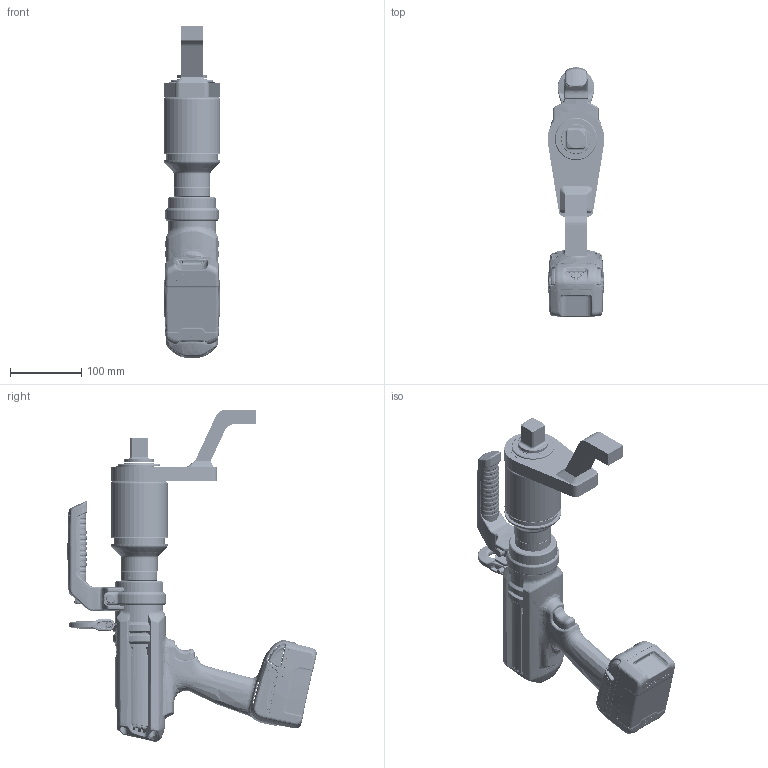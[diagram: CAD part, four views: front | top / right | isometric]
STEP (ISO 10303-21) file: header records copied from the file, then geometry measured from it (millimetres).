
FILE_DESCRIPTION((''),'2;1');
FILE_NAME('TE-VP2-SHELL_ASM','2020-12-01T13:50:51',('rryoung'),(''),'CREO PARAMETRIC BY PTC INC, 2019164','CREO PARAMETRIC BY PTC INC, 2019164','');
FILE_SCHEMA(('CONFIG_CONTROL_DESIGN'));
Products named in the file (8): TE-VP2-SHELLM01; TE-VP2-SHELLM02; TE-VP2-SHELLM03; TE-VP2-SHELLM04; TE-VP2-SHELLM06; TE-VP2-SHELLM14; TE-VP2-SHELLM08; TE-VP2-SHELL_ASM
Assembly tree (7 placements, depth 2):
  TE-VP2-SHELL_ASM
    TE-VP2-SHELLM01
    TE-VP2-SHELLM02
    TE-VP2-SHELLM03
    TE-VP2-SHELLM04
    TE-VP2-SHELLM06
    TE-VP2-SHELLM14
    TE-VP2-SHELLM08
Bounding box: 79.99 x 350.8 x 466.93 mm (x, y, z)
Surface area: 490933.5 mm2 (no closed solid volume)
Topology: 0 solids, 60 shells, 11839 faces, 28235 edges, 16449 vertices
Faces by surface type: bspline 6064, cylinder 2422, plane 1634, torus 684, cone 387, extrusion 351, sphere 288, revolution 9
Entity records: 633147 total; most frequent: CARTESIAN_POINT 406177, ORIENTED_EDGE 55396, DIRECTION 33936, EDGE_CURVE 28080, VERTEX_POINT 16449, B_SPLINE_CURVE_WITH_KNOTS 13226, AXIS2_PLACEMENT_3D 12932, EDGE_LOOP 12037
